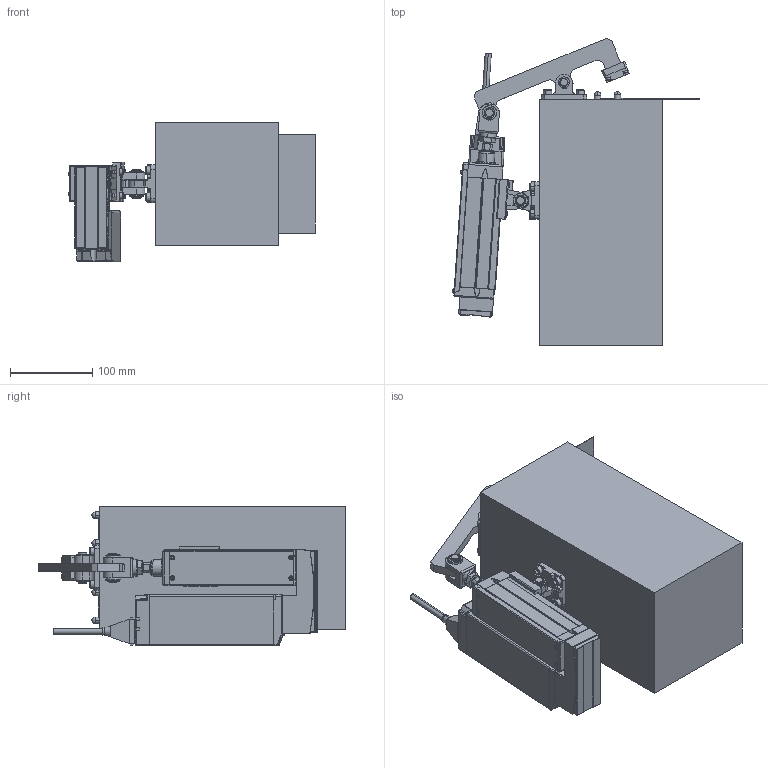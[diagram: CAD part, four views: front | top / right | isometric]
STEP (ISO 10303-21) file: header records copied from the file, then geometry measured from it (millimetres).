
FILE_DESCRIPTION (( 'STEP AP214' ), '1' );
FILE_NAME ('クランプ(揺動)_組立図.STEP', '2025-04-18T01:59:16', ( '' ), ( '' ), 'SwSTEP 2.0', 'SolidWorks 2023', '' );
FILE_SCHEMA (( 'AUTOMOTIVE_DESIGN' ));
Length unit declared in the file: millimetre
Products named in the file (25): RR4_R-cable; RR4_R-clevis; クランプ(揺動)_組立図; 六角穴付きボルト M6×15; 揺動金具_[00]作図用; RR4_R(50)-racylinder; 六角穴付きボルト_M3×10; 滑り軸受_[00]作図用; アーム_[00]作図用; 土台_ダミー2_[00]作図用; ゴムシート_[00]作図用; RR4_R-knuckle joint; EC-RR4SR-50-1-B-ML-NJ-QRPB-WA-(0)_[00]作図用; EC-RR4-R-50-1-ML_house; アタッチメント_[00]作図用; 位置決めピン_[00]作図用; RR4_R-pivot_bracket; スペーサー_[00]作図用; 止め輪_[00]作図用; シャフト_[00]作図用; 六角穴付きボルト_M5×15; EC-RR4R-50-1-B-ML_body; RR4_R-cyl_nut; ワーク_ダミー_[00]作図用; EC-RR4R-50-1--BML-WA_motor
Assembly tree (44 placements, depth 3):
  クランプ(揺動)_組立図
    土台_ダミー2_[00]作図用
    EC-RR4SR-50-1-B-ML-NJ-QRPB-WA-(0)_[00]作図用
      RR4_R-pivot_bracket
      RR4_R-clevis
      RR4_R-cable
      EC-RR4R-50-1--BML-WA_motor
      EC-RR4-R-50-1-ML_house
      RR4_R-knuckle joint
      RR4_R-cyl_nut
      RR4_R(50)-racylinder
      EC-RR4R-50-1-B-ML_body
    六角穴付きボルト M6×15  x8
    揺動金具_[00]作図用
    滑り軸受_[00]作図用  x4
    シャフト_[00]作図用
    止め輪_[00]作図用  x2
    アーム_[00]作図用
    アタッチメント_[00]作図用
    六角穴付きボルト_M5×15
    ゴムシート_[00]作図用
    スペーサー_[00]作図用  x4
    六角穴付きボルト_M3×10  x4
    位置決めピン_[00]作図用  x4
    ワーク_ダミー_[00]作図用
Bounding box: 300.62 x 374.03 x 170 mm (x, y, z)
Volume: 7852849.6 mm3; surface area: 461238.7 mm2
Topology: 43 solids, 43 shells, 2137 faces, 5447 edges, 3463 vertices
Faces by surface type: plane 1212, cylinder 629, cone 256, torus 26, sphere 10, bspline 4
Entity records: 66747 total; most frequent: CARTESIAN_POINT 11060, DIRECTION 9321, ORIENTED_EDGE 9314, EDGE_CURVE 4657, VECTOR 3169, LINE 3169, AXIS2_PLACEMENT_3D 3076, VERTEX_POINT 3024
